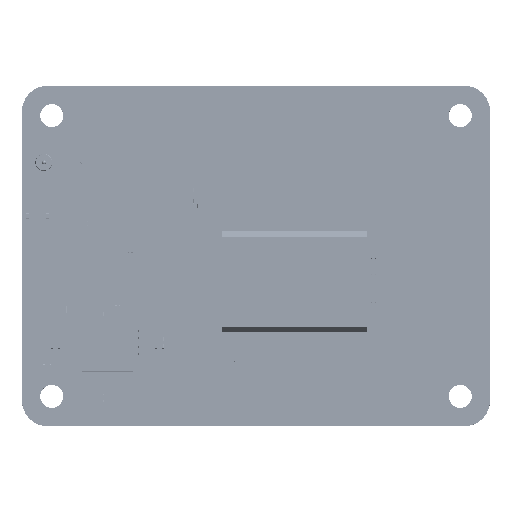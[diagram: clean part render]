
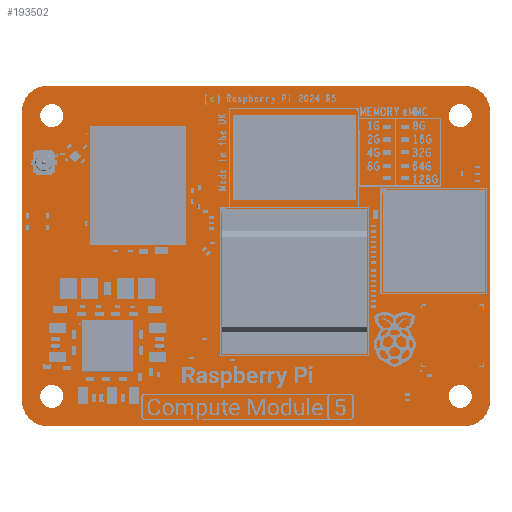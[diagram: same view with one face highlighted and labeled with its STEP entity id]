
A CAD part, top view. The second image highlights one B-rep face of the part: STEP entity #193502.
In plain terms, the highlighted planar face has unit normal (0, 0, 1).
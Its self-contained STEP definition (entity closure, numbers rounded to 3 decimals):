
#193502=ADVANCED_FACE('',(#422336,#422337,#422338,#422339,#422340),#422341,.T.);
#422336=FACE_OUTER_BOUND('',#671505,.T.);
#422337=FACE_BOUND('',#671506,.T.);
#422338=FACE_BOUND('',#671507,.T.);
#422339=FACE_BOUND('',#671508,.T.);
#422340=FACE_BOUND('',#671509,.T.);
#422341=PLANE('',#671510);
#671505=EDGE_LOOP('',(#851893,#851894,#851895,#851896,#851897,#851898,#851899,#851900));
#671506=EDGE_LOOP('',(#851901,#851902));
#671507=EDGE_LOOP('',(#851903,#851904));
#671508=EDGE_LOOP('',(#851905,#851906));
#671509=EDGE_LOOP('',(#851907,#851908));
#671510=AXIS2_PLACEMENT_3D('',#851909,#851910,#851911);
#851893=ORIENTED_EDGE('',*,*,#1093140,.F.);
#851894=ORIENTED_EDGE('',*,*,#1093141,.F.);
#851895=ORIENTED_EDGE('',*,*,#1093142,.F.);
#851896=ORIENTED_EDGE('',*,*,#1093143,.F.);
#851897=ORIENTED_EDGE('',*,*,#1093144,.F.);
#851898=ORIENTED_EDGE('',*,*,#1093145,.F.);
#851899=ORIENTED_EDGE('',*,*,#1093146,.F.);
#851900=ORIENTED_EDGE('',*,*,#1093147,.F.);
#851901=ORIENTED_EDGE('',*,*,#1093148,.F.);
#851902=ORIENTED_EDGE('',*,*,#1093127,.F.);
#851903=ORIENTED_EDGE('',*,*,#1093149,.F.);
#851904=ORIENTED_EDGE('',*,*,#1093131,.F.);
#851905=ORIENTED_EDGE('',*,*,#1093150,.F.);
#851906=ORIENTED_EDGE('',*,*,#1093135,.F.);
#851907=ORIENTED_EDGE('',*,*,#1093151,.F.);
#851908=ORIENTED_EDGE('',*,*,#1093139,.F.);
#851909=CARTESIAN_POINT('',(27.5,20.,-0.033));
#851910=DIRECTION('',(0.0,0.0,1.0));
#851911=DIRECTION('',(1.0,0.0,0.0));
#1093127=EDGE_CURVE('',#1424590,#1424586,#1424592,.T.);
#1093131=EDGE_CURVE('',#1424598,#1424594,#1424600,.T.);
#1093135=EDGE_CURVE('',#1424606,#1424602,#1424608,.T.);
#1093139=EDGE_CURVE('',#1424614,#1424610,#1424616,.T.);
#1093140=EDGE_CURVE('',#1424617,#1424618,#1424619,.T.);
#1093141=EDGE_CURVE('',#1424620,#1424617,#1424621,.T.);
#1093142=EDGE_CURVE('',#1424622,#1424620,#1424623,.T.);
#1093143=EDGE_CURVE('',#1424624,#1424622,#1424625,.T.);
#1093144=EDGE_CURVE('',#1424626,#1424624,#1424627,.T.);
#1093145=EDGE_CURVE('',#1424628,#1424626,#1424629,.T.);
#1093146=EDGE_CURVE('',#1424630,#1424628,#1424631,.T.);
#1093147=EDGE_CURVE('',#1424618,#1424630,#1424632,.T.);
#1093148=EDGE_CURVE('',#1424586,#1424590,#1424633,.T.);
#1093149=EDGE_CURVE('',#1424594,#1424598,#1424634,.T.);
#1093150=EDGE_CURVE('',#1424602,#1424606,#1424635,.T.);
#1093151=EDGE_CURVE('',#1424610,#1424614,#1424636,.T.);
#1424586=VERTEX_POINT('',#1613999);
#1424590=VERTEX_POINT('',#1614004);
#1424592=CIRCLE('',#1614007,1.35);
#1424594=VERTEX_POINT('',#1614009);
#1424598=VERTEX_POINT('',#1614014);
#1424600=CIRCLE('',#1614017,1.35);
#1424602=VERTEX_POINT('',#1614019);
#1424606=VERTEX_POINT('',#1614024);
#1424608=CIRCLE('',#1614027,1.35);
#1424610=VERTEX_POINT('',#1614029);
#1424614=VERTEX_POINT('',#1614034);
#1424616=CIRCLE('',#1614037,1.35);
#1424617=VERTEX_POINT('',#1614038);
#1424618=VERTEX_POINT('',#1614039);
#1424619=LINE('',#1614040,#1614041);
#1424620=VERTEX_POINT('',#1614042);
#1424621=CIRCLE('',#1614043,3.);
#1424622=VERTEX_POINT('',#1614044);
#1424623=LINE('',#1614045,#1614046);
#1424624=VERTEX_POINT('',#1614047);
#1424625=CIRCLE('',#1614048,3.);
#1424626=VERTEX_POINT('',#1614049);
#1424627=LINE('',#1614050,#1614051);
#1424628=VERTEX_POINT('',#1614052);
#1424629=CIRCLE('',#1614053,3.);
#1424630=VERTEX_POINT('',#1614054);
#1424631=LINE('',#1614055,#1614056);
#1424632=CIRCLE('',#1614057,3.);
#1424633=CIRCLE('',#1614058,1.35);
#1424634=CIRCLE('',#1614059,1.35);
#1424635=CIRCLE('',#1614060,1.35);
#1424636=CIRCLE('',#1614061,1.35);
#1613999=CARTESIAN_POINT('',(2.15,3.5,-0.033));
#1614004=CARTESIAN_POINT('',(4.85,3.5,-0.033));
#1614007=AXIS2_PLACEMENT_3D('',#1726672,#1726673,#1726674);
#1614009=CARTESIAN_POINT('',(50.15,3.5,-0.033));
#1614014=CARTESIAN_POINT('',(52.85,3.5,-0.033));
#1614017=AXIS2_PLACEMENT_3D('',#1726680,#1726681,#1726682);
#1614019=CARTESIAN_POINT('',(2.15,36.5,-0.033));
#1614024=CARTESIAN_POINT('',(4.85,36.5,-0.033));
#1614027=AXIS2_PLACEMENT_3D('',#1726688,#1726689,#1726690);
#1614029=CARTESIAN_POINT('',(50.15,36.5,-0.033));
#1614034=CARTESIAN_POINT('',(52.85,36.5,-0.033));
#1614037=AXIS2_PLACEMENT_3D('',#1726696,#1726697,#1726698);
#1614038=CARTESIAN_POINT('',(3.0,40.0,-0.033));
#1614039=CARTESIAN_POINT('',(52.0,40.0,-0.033));
#1614040=CARTESIAN_POINT('',(27.5,40.0,-0.033));
#1614041=VECTOR('',#1726699,0.01);
#1614042=CARTESIAN_POINT('',(0.0,37.0,-0.033));
#1614043=AXIS2_PLACEMENT_3D('',#1726700,#1726701,#1726702);
#1614044=CARTESIAN_POINT('',(0.,3.0,-0.033));
#1614045=CARTESIAN_POINT('',(0.,20.0,-0.033));
#1614046=VECTOR('',#1726703,0.01);
#1614047=CARTESIAN_POINT('',(3.0,0.0,-0.033));
#1614048=AXIS2_PLACEMENT_3D('',#1726704,#1726705,#1726706);
#1614049=CARTESIAN_POINT('',(52.0,0.,-0.033));
#1614050=CARTESIAN_POINT('',(27.5,0.,-0.033));
#1614051=VECTOR('',#1726707,0.01);
#1614052=CARTESIAN_POINT('',(55.0,3.0,-0.033));
#1614053=AXIS2_PLACEMENT_3D('',#1726708,#1726709,#1726710);
#1614054=CARTESIAN_POINT('',(55.0,37.0,-0.033));
#1614055=CARTESIAN_POINT('',(55.0,20.0,-0.033));
#1614056=VECTOR('',#1726711,0.01);
#1614057=AXIS2_PLACEMENT_3D('',#1726712,#1726713,#1726714);
#1614058=AXIS2_PLACEMENT_3D('',#1726715,#1726716,#1726717);
#1614059=AXIS2_PLACEMENT_3D('',#1726718,#1726719,#1726720);
#1614060=AXIS2_PLACEMENT_3D('',#1726721,#1726722,#1726723);
#1614061=AXIS2_PLACEMENT_3D('',#1726724,#1726725,#1726726);
#1726672=CARTESIAN_POINT('',(3.5,3.5,-0.033));
#1726673=DIRECTION('',(0.0,0.0,1.0));
#1726674=DIRECTION('',(-1.0,0.,0.0));
#1726680=CARTESIAN_POINT('',(51.5,3.5,-0.033));
#1726681=DIRECTION('',(0.0,0.0,1.0));
#1726682=DIRECTION('',(-1.,0.,0.0));
#1726688=CARTESIAN_POINT('',(3.5,36.5,-0.033));
#1726689=DIRECTION('',(0.0,0.0,1.0));
#1726690=DIRECTION('',(-1.,0.,0.0));
#1726696=CARTESIAN_POINT('',(51.5,36.5,-0.033));
#1726697=DIRECTION('',(0.0,0.0,1.0));
#1726698=DIRECTION('',(-1.,0.,0.0));
#1726699=DIRECTION('',(1.0,0.0,0.0));
#1726700=CARTESIAN_POINT('',(3.,37.,-0.033));
#1726701=DIRECTION('',(-0.0,0.0,-1.0));
#1726702=DIRECTION('',(-1.,0.,0.0));
#1726703=DIRECTION('',(0.0,1.0,0.0));
#1726704=CARTESIAN_POINT('',(3.,3.,-0.033));
#1726705=DIRECTION('',(-0.0,0.0,-1.0));
#1726706=DIRECTION('',(0.,-1.0,0.0));
#1726707=DIRECTION('',(-1.0,0.0,0.0));
#1726708=CARTESIAN_POINT('',(52.,3.,-0.033));
#1726709=DIRECTION('',(0.0,0.0,-1.0));
#1726710=DIRECTION('',(1.,0.,0.0));
#1726711=DIRECTION('',(0.0,-1.0,0.0));
#1726712=CARTESIAN_POINT('',(52.,37.,-0.033));
#1726713=DIRECTION('',(0.0,0.0,-1.0));
#1726714=DIRECTION('',(0.,1.,0.0));
#1726715=CARTESIAN_POINT('',(3.5,3.5,-0.033));
#1726716=DIRECTION('',(0.0,0.0,1.0));
#1726717=DIRECTION('',(-1.0,0.,0.0));
#1726718=CARTESIAN_POINT('',(51.5,3.5,-0.033));
#1726719=DIRECTION('',(0.0,0.0,1.0));
#1726720=DIRECTION('',(-1.,0.,0.0));
#1726721=CARTESIAN_POINT('',(3.5,36.5,-0.033));
#1726722=DIRECTION('',(0.0,0.0,1.0));
#1726723=DIRECTION('',(-1.,0.,0.0));
#1726724=CARTESIAN_POINT('',(51.5,36.5,-0.033));
#1726725=DIRECTION('',(0.0,0.0,1.0));
#1726726=DIRECTION('',(-1.,0.,0.0));
